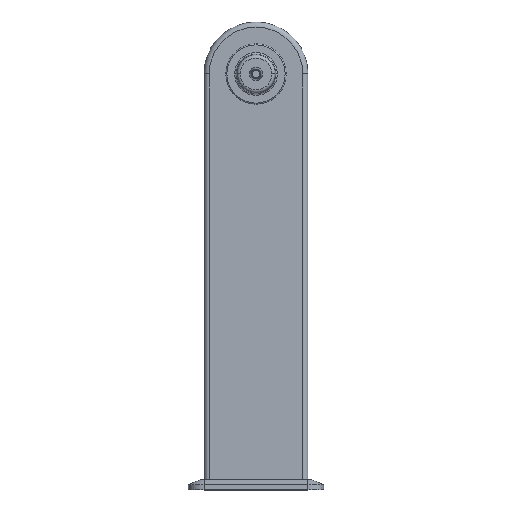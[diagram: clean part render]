
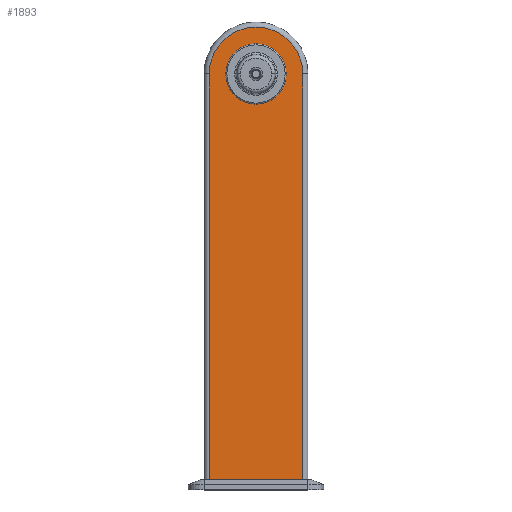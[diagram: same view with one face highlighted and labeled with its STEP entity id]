
A CAD part, top view. The second image highlights one B-rep face of the part: STEP entity #1893.
In plain terms, the highlighted planar face has unit normal (0, 0, 1).
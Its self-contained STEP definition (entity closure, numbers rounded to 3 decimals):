
#75 = LINE ( 'NONE', #1912, #2108 ) ;
#127 = PLANE ( 'NONE',  #1907 ) ;
#176 = DIRECTION ( 'NONE',  ( 0., -1., 0. ) ) ;
#264 = EDGE_CURVE ( 'NONE', #1250, #1866, #2004, .T. ) ;
#275 = DIRECTION ( 'NONE',  ( 0., 0., 1. ) ) ;
#282 = EDGE_CURVE ( 'NONE', #1424, #1099, #849, .T. ) ;
#299 = ORIENTED_EDGE ( 'NONE', *, *, #282, .F. ) ;
#409 = EDGE_CURVE ( 'NONE', #1593, #1250, #1597, .T. ) ;
#443 = CARTESIAN_POINT ( 'NONE',  ( 0., 0., 31.25 ) ) ;
#562 = ORIENTED_EDGE ( 'NONE', *, *, #2232, .T. ) ;
#604 = CARTESIAN_POINT ( 'NONE',  ( 90., 0., 31.25 ) ) ;
#656 = DIRECTION ( 'NONE',  ( 1., 0., 0. ) ) ;
#715 = CARTESIAN_POINT ( 'NONE',  ( -90., -800., 31.25 ) ) ;
#757 = CARTESIAN_POINT ( 'NONE',  ( 0., 0., 31.25 ) ) ;
#835 = FACE_OUTER_BOUND ( 'NONE', #1286, .T. ) ;
#849 = CIRCLE ( 'NONE', #2411, 58. ) ;
#894 = FACE_BOUND ( 'NONE', #1669, .T. ) ;
#907 = VECTOR ( 'NONE', #1540, 1000. ) ;
#950 = ORIENTED_EDGE ( 'NONE', *, *, #264, .T. ) ;
#1012 = CARTESIAN_POINT ( 'NONE',  ( 58., 0., 31.25 ) ) ;
#1064 = VECTOR ( 'NONE', #176, 1000. ) ;
#1068 = CARTESIAN_POINT ( 'NONE',  ( -90., 0., 31.25 ) ) ;
#1099 = VERTEX_POINT ( 'NONE', #1338 ) ;
#1140 = CIRCLE ( 'NONE', #2268, 58. ) ;
#1250 = VERTEX_POINT ( 'NONE', #2220 ) ;
#1268 = ORIENTED_EDGE ( 'NONE', *, *, #409, .T. ) ;
#1286 = EDGE_LOOP ( 'NONE', ( #1268, #950, #1856, #562 ) ) ;
#1338 = CARTESIAN_POINT ( 'NONE',  ( -58., 0., 31.25 ) ) ;
#1362 = DIRECTION ( 'NONE',  ( 1., 0., 0. ) ) ;
#1417 = AXIS2_PLACEMENT_3D ( 'NONE', #1502, #275, #1696 ) ;
#1424 = VERTEX_POINT ( 'NONE', #1012 ) ;
#1431 = VERTEX_POINT ( 'NONE', #604 ) ;
#1502 = CARTESIAN_POINT ( 'NONE',  ( 0., 0., 31.25 ) ) ;
#1540 = DIRECTION ( 'NONE',  ( 1., 0., 0. ) ) ;
#1593 = VERTEX_POINT ( 'NONE', #1068 ) ;
#1597 = LINE ( 'NONE', #715, #1064 ) ;
#1669 = EDGE_LOOP ( 'NONE', ( #299, #2365 ) ) ;
#1693 = CARTESIAN_POINT ( 'NONE',  ( 0., -780., 31.25 ) ) ;
#1696 = DIRECTION ( 'NONE',  ( 1., 0., 0. ) ) ;
#1722 = DIRECTION ( 'NONE',  ( 0., 1., 0. ) ) ;
#1811 = DIRECTION ( 'NONE',  ( 1., 0., 0. ) ) ;
#1855 = DIRECTION ( 'NONE',  ( 0., 0., 1. ) ) ;
#1856 = ORIENTED_EDGE ( 'NONE', *, *, #2327, .T. ) ;
#1866 = VERTEX_POINT ( 'NONE', #2088 ) ;
#1875 = DIRECTION ( 'NONE',  ( 0., 0., 1. ) ) ;
#1883 = CARTESIAN_POINT ( 'NONE',  ( 0., 0., 31.25 ) ) ;
#1893 = ADVANCED_FACE ( 'NONE', ( #835, #894 ), #127, .T. ) ;
#1907 = AXIS2_PLACEMENT_3D ( 'NONE', #757, #2384, #1362 ) ;
#1912 = CARTESIAN_POINT ( 'NONE',  ( 90., 0., 31.25 ) ) ;
#2004 = LINE ( 'NONE', #1693, #907 ) ;
#2088 = CARTESIAN_POINT ( 'NONE',  ( 90., -780., 31.25 ) ) ;
#2108 = VECTOR ( 'NONE', #1722, 1000. ) ;
#2135 = EDGE_CURVE ( 'NONE', #1099, #1424, #1140, .T. ) ;
#2220 = CARTESIAN_POINT ( 'NONE',  ( -90., -780., 31.25 ) ) ;
#2232 = EDGE_CURVE ( 'NONE', #1431, #1593, #2282, .T. ) ;
#2268 = AXIS2_PLACEMENT_3D ( 'NONE', #443, #1855, #656 ) ;
#2282 = CIRCLE ( 'NONE', #1417, 90. ) ;
#2327 = EDGE_CURVE ( 'NONE', #1866, #1431, #75, .T. ) ;
#2365 = ORIENTED_EDGE ( 'NONE', *, *, #2135, .F. ) ;
#2384 = DIRECTION ( 'NONE',  ( 0., 0., 1. ) ) ;
#2411 = AXIS2_PLACEMENT_3D ( 'NONE', #1883, #1875, #1811 ) ;
